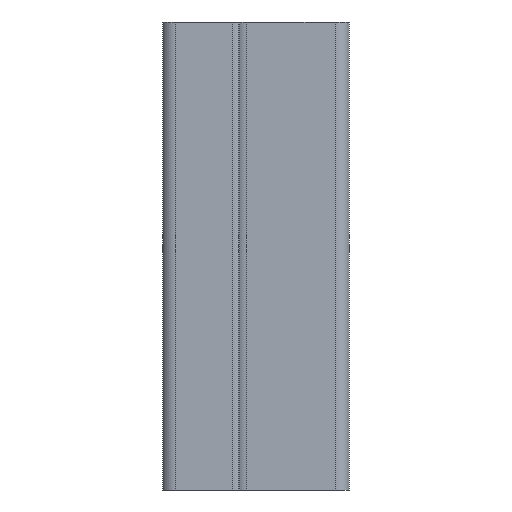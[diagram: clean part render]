
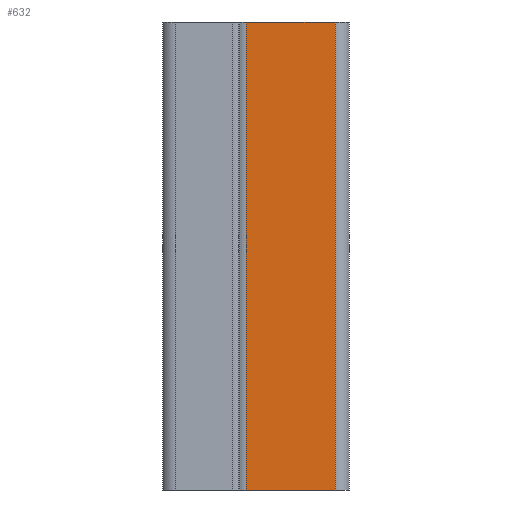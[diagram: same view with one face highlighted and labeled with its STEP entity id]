
A CAD part, left-side view. The second image highlights one B-rep face of the part: STEP entity #632.
In plain terms, the highlighted planar face has unit normal (-1, 0, 0).
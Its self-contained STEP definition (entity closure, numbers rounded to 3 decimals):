
#4 = PLANE ( 'NONE',  #257 ) ;
#5 = VERTEX_POINT ( 'NONE', #22 ) ;
#22 = CARTESIAN_POINT ( 'NONE',  ( -12.5, 9.5, 100. ) ) ;
#153 = CARTESIAN_POINT ( 'NONE',  ( -12.5, -9.5, 0. ) ) ;
#183 = VERTEX_POINT ( 'NONE', #153 ) ;
#190 = ORIENTED_EDGE ( 'NONE', *, *, #280, .F. ) ;
#192 = DIRECTION ( 'NONE',  ( 1., 0., 0. ) ) ;
#234 = CARTESIAN_POINT ( 'NONE',  ( -12.5, 9.5, 100. ) ) ;
#235 = CARTESIAN_POINT ( 'NONE',  ( -12.5, -9.5, 0. ) ) ;
#257 = AXIS2_PLACEMENT_3D ( 'NONE', #762, #192, #291 ) ;
#259 = VECTOR ( 'NONE', #449, 1000. ) ;
#280 = EDGE_CURVE ( 'NONE', #1039, #183, #1082, .T. ) ;
#291 = DIRECTION ( 'NONE',  ( 0., 1., 0. ) ) ;
#327 = DIRECTION ( 'NONE',  ( 0., -1., 0. ) ) ;
#351 = EDGE_LOOP ( 'NONE', ( #525, #190, #1122, #468 ) ) ;
#362 = VECTOR ( 'NONE', #414, 1000. ) ;
#414 = DIRECTION ( 'NONE',  ( 0., -1., 0. ) ) ;
#449 = DIRECTION ( 'NONE',  ( 0., 0., -1. ) ) ;
#468 = ORIENTED_EDGE ( 'NONE', *, *, #739, .T. ) ;
#525 = ORIENTED_EDGE ( 'NONE', *, *, #981, .T. ) ;
#578 = LINE ( 'NONE', #613, #931 ) ;
#613 = CARTESIAN_POINT ( 'NONE',  ( -12.5, -9.5, 100. ) ) ;
#628 = DIRECTION ( 'NONE',  ( 0., 0., -1. ) ) ;
#632 = ADVANCED_FACE ( 'NONE', ( #942 ), #4, .F. ) ;
#677 = EDGE_CURVE ( 'NONE', #5, #1039, #578, .T. ) ;
#723 = CARTESIAN_POINT ( 'NONE',  ( -12.5, -9.5, 100. ) ) ;
#739 = EDGE_CURVE ( 'NONE', #5, #1228, #1042, .T. ) ;
#762 = CARTESIAN_POINT ( 'NONE',  ( -12.5, -9.5, 100. ) ) ;
#786 = CARTESIAN_POINT ( 'NONE',  ( -12.5, 9.5, 0. ) ) ;
#893 = LINE ( 'NONE', #235, #362 ) ;
#909 = CARTESIAN_POINT ( 'NONE',  ( -12.5, -9.5, 100. ) ) ;
#931 = VECTOR ( 'NONE', #327, 1000. ) ;
#942 = FACE_OUTER_BOUND ( 'NONE', #351, .T. ) ;
#981 = EDGE_CURVE ( 'NONE', #1228, #183, #893, .T. ) ;
#1010 = VECTOR ( 'NONE', #628, 1000. ) ;
#1039 = VERTEX_POINT ( 'NONE', #723 ) ;
#1042 = LINE ( 'NONE', #234, #1010 ) ;
#1082 = LINE ( 'NONE', #909, #259 ) ;
#1122 = ORIENTED_EDGE ( 'NONE', *, *, #677, .F. ) ;
#1228 = VERTEX_POINT ( 'NONE', #786 ) ;
